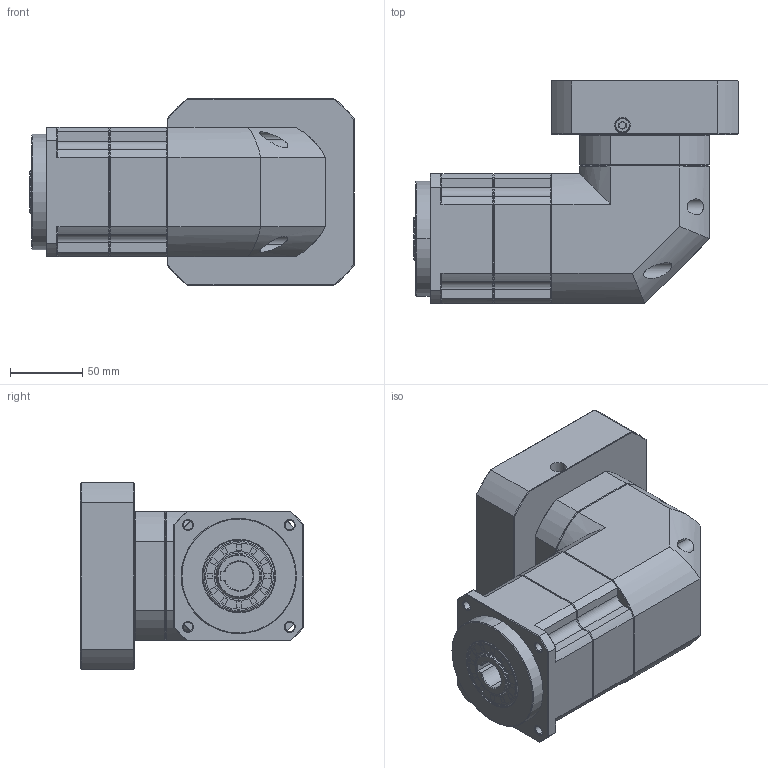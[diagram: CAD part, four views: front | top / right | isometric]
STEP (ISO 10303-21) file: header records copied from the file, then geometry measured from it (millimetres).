
FILE_DESCRIPTION (( 'STEP AP214' ), '1' );
FILE_NAME ('ZPBR090-K20-L2-P1-22-110-130-M8.step', '2024-06-07T18:41:18', ( 'Windows 蚚誧' ), ( 'Organization' ), 'SwSTEP 2.0', 'SolidWorks 2016', '' );
FILE_SCHEMA (( 'AUTOMOTIVE_DESIGN' ));
Length unit declared in the file: millimetre
Products named in the file (1): ZPBR090-K20-L2-P1-22-110-130-M8
Bounding box: 225.5 x 155 x 130 mm (x, y, z)
Surface area: 163748 mm2 (no closed solid volume)
Topology: 0 solids, 32 shells, 1867 faces, 4917 edges, 3138 vertices
Faces by surface type: plane 1002, bspline 368, cone 258, cylinder 224, torus 15
Entity records: 85364 total; most frequent: CARTESIAN_POINT 38448, ORIENTED_EDGE 9814, DIRECTION 7685, EDGE_CURVE 4917, LINE 3283, VECTOR 3283, VERTEX_POINT 3138, AXIS2_PLACEMENT_3D 2201
